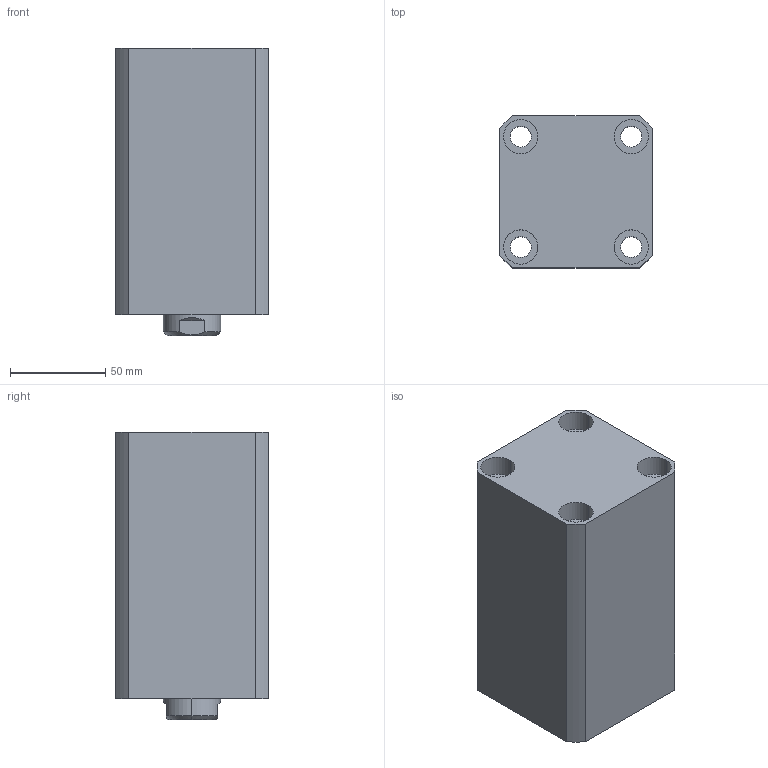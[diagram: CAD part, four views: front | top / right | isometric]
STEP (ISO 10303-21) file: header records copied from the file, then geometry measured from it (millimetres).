
FILE_DESCRIPTION (( 'STEP AP203' ), '1' );
FILE_NAME ('CHTB-SD50-80N.STEP', '2018-05-19T00:31:21', ( '' ), ( '' ), 'SwSTEP 2.0', 'SolidWorks 2015', '' );
FILE_SCHEMA (( 'CONFIG_CONTROL_DESIGN' ));
Length unit declared in the file: millimetre
Products named in the file (4): 活塞杆SD50-80N; CHTB-SD50-80N; CHTM-SD50QG; 掛极SD50-80N
Assembly tree (3 placements, depth 2):
  CHTB-SD50-80N
    掛极SD50-80N
    活塞杆SD50-80N
    CHTM-SD50QG
Bounding box: 80 x 80 x 151 mm (x, y, z)
Volume: 708190.2 mm3; surface area: 133856.3 mm2
Topology: 3 solids, 3 shells, 194 faces, 499 edges, 330 vertices
Faces by surface type: cylinder 104, plane 39, cone 21, torus 16, bspline 14
Entity records: 10789 total; most frequent: CARTESIAN_POINT 5840, ORIENTED_EDGE 986, DIRECTION 914, EDGE_CURVE 493, AXIS2_PLACEMENT_3D 383, VERTEX_POINT 330, EDGE_LOOP 233, CIRCLE 197
